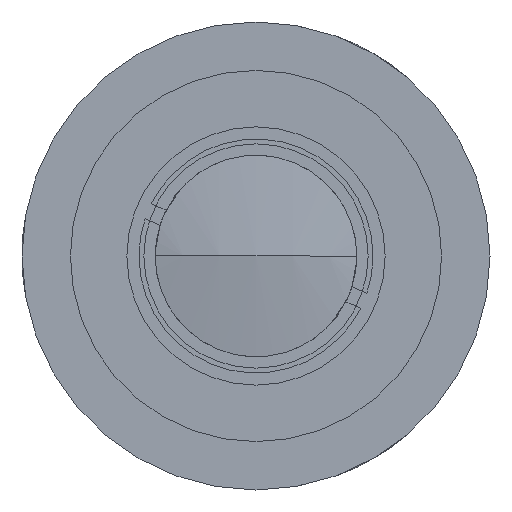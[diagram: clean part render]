
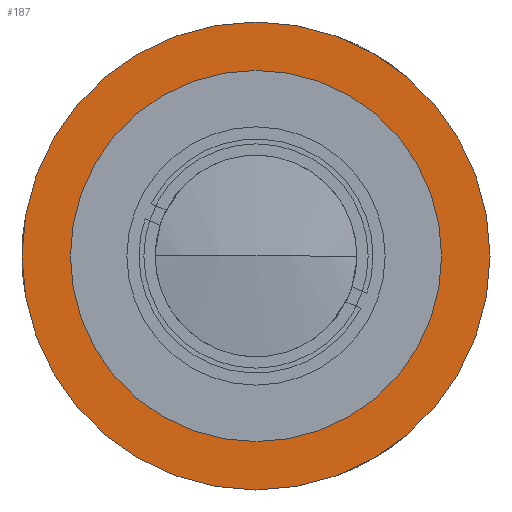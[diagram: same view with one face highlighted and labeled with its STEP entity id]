
A CAD part, left-side view. The second image highlights one B-rep face of the part: STEP entity #187.
In plain terms, the highlighted planar face has unit normal (-1, 0, 0).
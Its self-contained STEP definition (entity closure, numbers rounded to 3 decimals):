
#41 = AXIS2_PLACEMENT_3D ( 'NONE', #2236, #1891, #1913 ) ;
#93 = CARTESIAN_POINT ( 'NONE',  ( 82.25, 0., 11.5 ) ) ;
#109 = VERTEX_POINT ( 'NONE', #681 ) ;
#183 = DIRECTION ( 'NONE',  ( 0., 0., -1. ) ) ;
#187 = ADVANCED_FACE ( 'NONE', ( #1569, #197 ), #518, .F. ) ;
#197 = FACE_OUTER_BOUND ( 'NONE', #786, .T. ) ;
#198 = AXIS2_PLACEMENT_3D ( 'NONE', #1309, #714, #2153 ) ;
#201 = AXIS2_PLACEMENT_3D ( 'NONE', #2060, #1551, #269 ) ;
#269 = DIRECTION ( 'NONE',  ( 0., 0., 1. ) ) ;
#378 = CIRCLE ( 'NONE', #517, 14.5 ) ;
#442 = CIRCLE ( 'NONE', #201, 11.5 ) ;
#450 = EDGE_LOOP ( 'NONE', ( #2008, #1679 ) ) ;
#477 = CARTESIAN_POINT ( 'NONE',  ( 82.25, 0., 0. ) ) ;
#487 = DIRECTION ( 'NONE',  ( 1., 0., 0. ) ) ;
#517 = AXIS2_PLACEMENT_3D ( 'NONE', #477, #1271, #2052 ) ;
#518 = PLANE ( 'NONE',  #1635 ) ;
#603 = CIRCLE ( 'NONE', #198, 11.5 ) ;
#653 = EDGE_CURVE ( 'NONE', #109, #694, #378, .T. ) ;
#681 = CARTESIAN_POINT ( 'NONE',  ( 82.25, 0., 14.5 ) ) ;
#694 = VERTEX_POINT ( 'NONE', #1665 ) ;
#701 = CARTESIAN_POINT ( 'NONE',  ( 82.25, 11.5, 0. ) ) ;
#714 = DIRECTION ( 'NONE',  ( -1., 0., 0. ) ) ;
#786 = EDGE_LOOP ( 'NONE', ( #1987, #2199 ) ) ;
#874 = EDGE_CURVE ( 'NONE', #2108, #1052, #442, .T. ) ;
#1052 = VERTEX_POINT ( 'NONE', #93 ) ;
#1271 = DIRECTION ( 'NONE',  ( -1., 0., 0. ) ) ;
#1309 = CARTESIAN_POINT ( 'NONE',  ( 82.25, 0., 0. ) ) ;
#1518 = CARTESIAN_POINT ( 'NONE',  ( 82.25, 0., -11.5 ) ) ;
#1551 = DIRECTION ( 'NONE',  ( -1., 0., 0. ) ) ;
#1569 = FACE_BOUND ( 'NONE', #450, .T. ) ;
#1635 = AXIS2_PLACEMENT_3D ( 'NONE', #701, #487, #183 ) ;
#1659 = CIRCLE ( 'NONE', #41, 14.5 ) ;
#1665 = CARTESIAN_POINT ( 'NONE',  ( 82.25, 0., -14.5 ) ) ;
#1679 = ORIENTED_EDGE ( 'NONE', *, *, #874, .F. ) ;
#1863 = EDGE_CURVE ( 'NONE', #694, #109, #1659, .T. ) ;
#1891 = DIRECTION ( 'NONE',  ( -1., 0., 0. ) ) ;
#1913 = DIRECTION ( 'NONE',  ( 0., 0., 1. ) ) ;
#1984 = EDGE_CURVE ( 'NONE', #1052, #2108, #603, .T. ) ;
#1987 = ORIENTED_EDGE ( 'NONE', *, *, #653, .T. ) ;
#2008 = ORIENTED_EDGE ( 'NONE', *, *, #1984, .F. ) ;
#2052 = DIRECTION ( 'NONE',  ( 0., 0., 1. ) ) ;
#2060 = CARTESIAN_POINT ( 'NONE',  ( 82.25, 0., 0. ) ) ;
#2108 = VERTEX_POINT ( 'NONE', #1518 ) ;
#2153 = DIRECTION ( 'NONE',  ( 0., 0., 1. ) ) ;
#2199 = ORIENTED_EDGE ( 'NONE', *, *, #1863, .T. ) ;
#2236 = CARTESIAN_POINT ( 'NONE',  ( 82.25, 0., 0. ) ) ;
